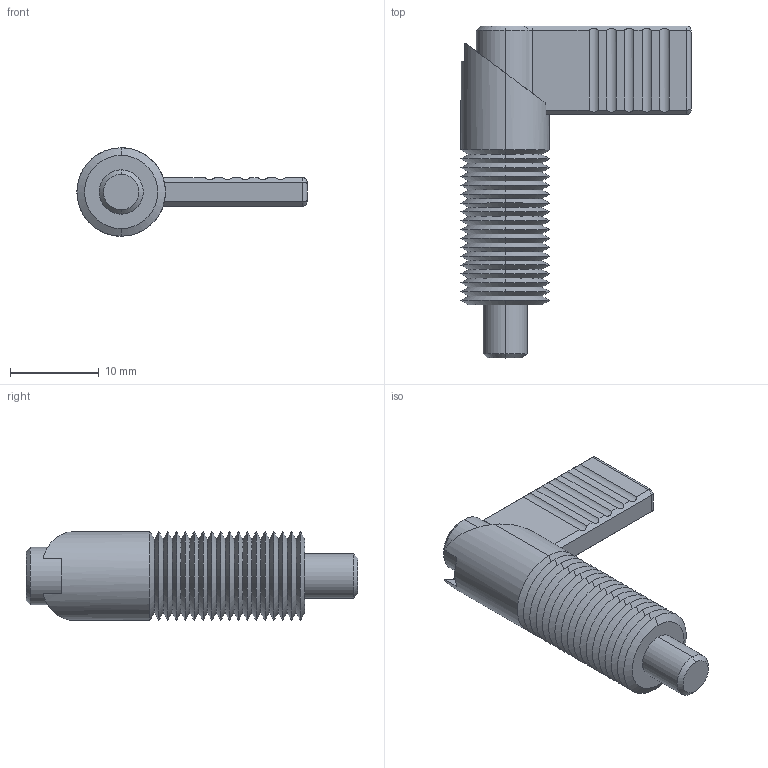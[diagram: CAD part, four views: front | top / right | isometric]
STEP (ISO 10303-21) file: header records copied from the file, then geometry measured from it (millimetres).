
FILE_DESCRIPTION (( 'STEP AP203' ), '1' );
FILE_NAME ('32501.W0310.step', '2016-02-10T17:19:33', ( 'User' ), ( '' ), 'SwSTEP 2.0', 'SolidWorks 2009', '' );
FILE_SCHEMA (( 'CONFIG_CONTROL_DESIGN' ));
Length unit declared in the file: millimetre
Products named in the file (3): Part2_32501.W0310; Part1_32501.W0310; 32501.W0310
Assembly tree (2 placements, depth 2):
  32501.W0310
    Part2_32501.W0310
    Part1_32501.W0310
Bounding box: 26 x 37.5 x 10 mm (x, y, z)
Volume: 2126.3 mm3; surface area: 3060.2 mm2
Topology: 2 solids, 2 shells, 151 faces, 336 edges, 192 vertices
Faces by surface type: cone 84, cylinder 40, plane 27
Entity records: 4449 total; most frequent: CARTESIAN_POINT 852, DIRECTION 726, ORIENTED_EDGE 672, EDGE_CURVE 336, AXIS2_PLACEMENT_3D 276, VERTEX_POINT 192, LINE 174, VECTOR 174
